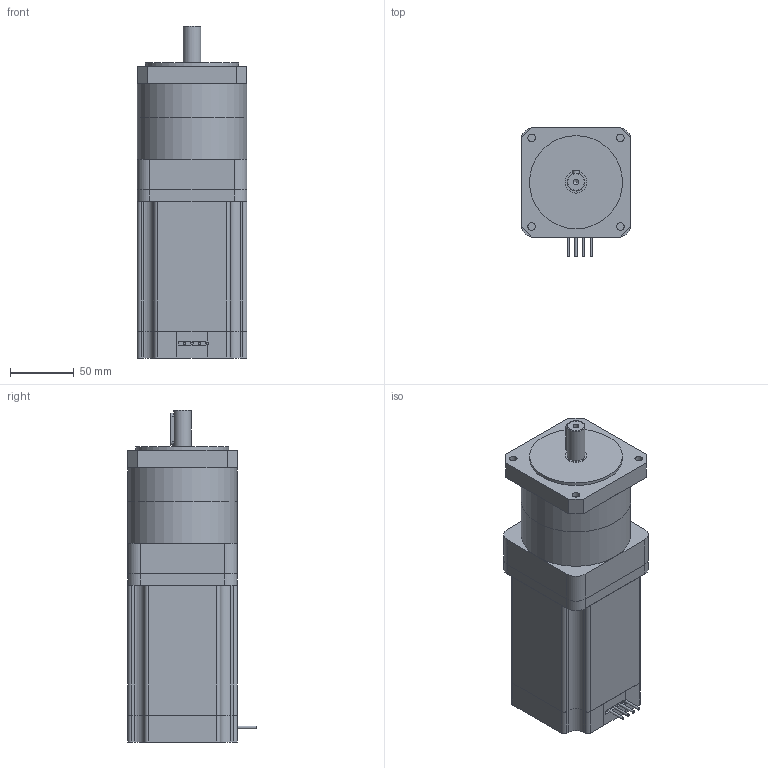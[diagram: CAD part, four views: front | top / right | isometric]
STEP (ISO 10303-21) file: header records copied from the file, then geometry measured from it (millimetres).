
FILE_DESCRIPTION(/* description */ (''),/* implementation_level */ '2;1');
FILE_NAME(/* name */ 'T86PG015-D60-04132.stp',/* time_stamp */ '2018-08-29T15:25:53+08:00',/* author */ (''),/* organization */ (''),/* preprocessor_version */ 'ST-DEVELOPER v11',/* originating_system */ 'SIEMENS UGS NX 6.0',/* authorisation */ '');
FILE_SCHEMA (('CONFIG_CONTROL_DESIGN'));
Length unit declared in the file: millimetre
Products named in the file (1): T86PG015-D60-04132
Bounding box: 86 x 101 x 260.5 mm (x, y, z)
Volume: 1531006.6 mm3; surface area: 156468.6 mm2
Topology: 6 solids, 6 shells, 130 faces, 316 edges, 210 vertices
Faces by surface type: plane 80, cylinder 48, cone 1, torus 1
Full cylindrical faces by diameter (mm): 2 x4, 4.5 x1, 6 x4, 14 x1, 17 x1, 73 x1, 86 x2
Entity records: 3816 total; most frequent: CARTESIAN_POINT 688, DIRECTION 652, ORIENTED_EDGE 586, EDGE_CURVE 293, AXIS2_PLACEMENT_3D 230, VERTEX_POINT 204, LINE 192, VECTOR 192
